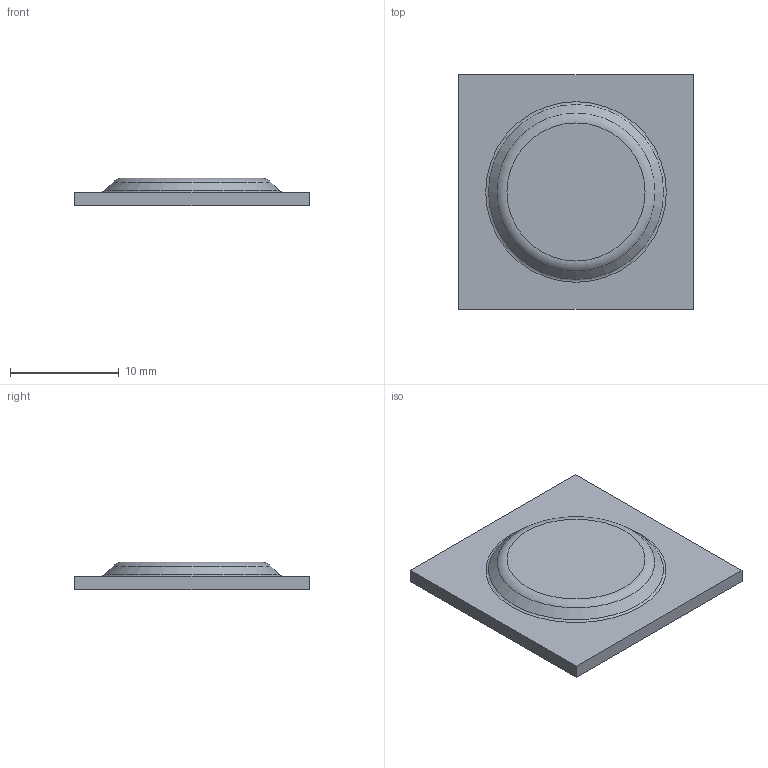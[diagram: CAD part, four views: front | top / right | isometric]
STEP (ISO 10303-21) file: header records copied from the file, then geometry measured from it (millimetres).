
FILE_DESCRIPTION((''),'1');
FILE_NAME('C:/Users/ericfrey.TRIAX/Documents/Desktop/DIMPLE FOR 407-5826-00 REV 01.stp', '2014-03-26T17:44:38',(''), (''), 'KCM Version 1.1.967.0', 'Kubotek KeyCreator', '');
FILE_SCHEMA(('AUTOMOTIVE_DESIGN'));
Length unit declared in the file: inch
Bounding box: 21.59 x 21.59 x 2.54 mm (x, y, z)
Volume: 618.4 mm3; surface area: 1082.6 mm2
Topology: 1 solids, 1 shells, 14 faces, 26 edges, 16 vertices
Faces by surface type: plane 8, torus 4, cone 2
Entity records: 375 total; most frequent: DIRECTION 68, CARTESIAN_POINT 57, ORIENTED_EDGE 52, AXIS2_PLACEMENT_3D 27, EDGE_CURVE 26, VERTEX_POINT 16, EDGE_LOOP 16, FACE_OUTER_BOUND 14
